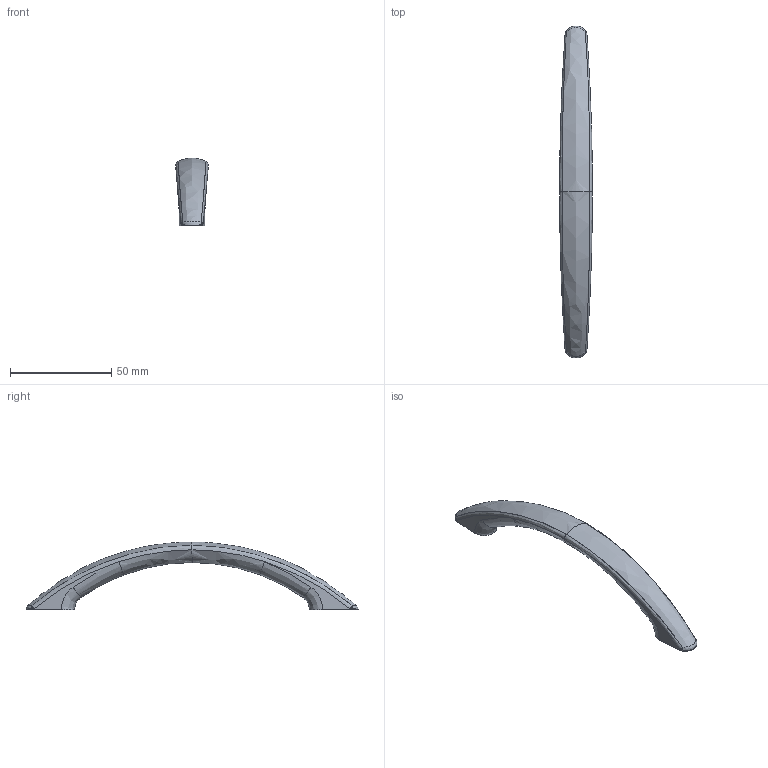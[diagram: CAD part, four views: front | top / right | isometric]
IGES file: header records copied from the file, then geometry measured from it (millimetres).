
Start section: C
Global section: file name: 8091.igs; native system: By Siemens PLM Incorporated; preprocessor: XPlus GENERIC/IGES 16.0.42; author: Author; organization: Title; date: 20231128.120956; units: millimetre
Bounding box: 16.2 x 163.94 x 33.5 mm (x, y, z)
Surface area: 8139.1 mm2 (no closed solid volume)
Topology: 0 solids, 0 shells, 59 faces, 279 edges, 279 vertices
Faces by surface type: bspline 59
